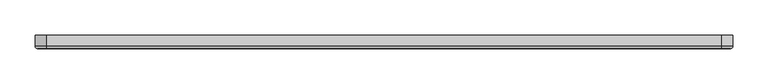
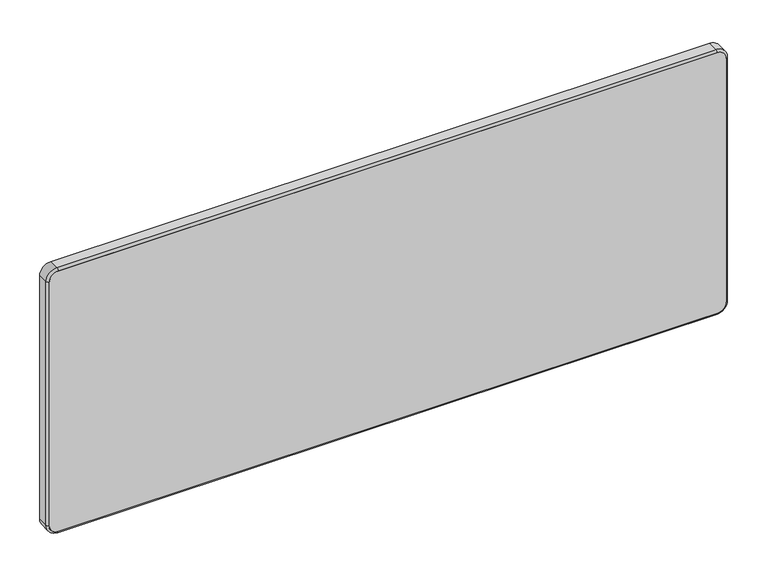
"""IFC4 building model written with IfcOpenShell, lengths in millimetres: furniture geometry, Stance_HC-Camber-Board : SK600E-SFB."""

from ifc_helpers import new_model, si_unit, point, frame, frame_2d, origin, place, context, project, spatial, polyline, circle_curve, ellipse_curve, trimmed, segment, composite_curve, outline, extrude, source, transform, mapped, element, save
from ifc_brep_helpers import plane_surface, cylinder_surface, revolved_surface, advanced_brep


def furniture_7bf03be5(model_context):
    return source(origin(), model_context, "Body", "SolidModel", [
        extrude(outline(composite_curve([segment(polyline([(403.2249758, 479.425), (403.2249758, -479.425)]), True, "CONTINUOUS"), segment(trimmed(circle_curve(frame_2d((390.525, -479.425)), 12.6999758), [point((403.2249758, -479.425))], [point((390.525, -492.1249758))], False, "CARTESIAN"), True, "CONTINUOUS"), segment(polyline([(390.525, -492.1249758), (15.875, -492.1249758)]), True, "CONTINUOUS"), segment(trimmed(circle_curve(frame_2d((15.875, -479.425)), 12.6999758), [point((15.875, -492.1249758))], [point((3.1750242, -479.425))], False, "CARTESIAN"), True, "CONTINUOUS"), segment(polyline([(3.1750242, -479.425), (3.1750242, 479.425)]), True, "CONTINUOUS"), segment(trimmed(circle_curve(frame_2d((15.875, 479.425)), 12.6999758), [point((3.1750242, 479.425))], [point((15.875, 492.1249758))], False, "CARTESIAN"), True, "CONTINUOUS"), segment(polyline([(15.875, 492.1249758), (390.525, 492.1249758)]), True, "CONTINUOUS"), segment(trimmed(circle_curve(frame_2d((390.525, 479.425)), 12.6999758), [point((390.525, 492.1249758))], [point((403.2249758, 479.425))], False, "CARTESIAN"), True, "CONTINUOUS")], self_intersect=False)), frame((0.0, -19.05, 0.0), z_axis=(0.0, 1.0, 0.0), x_axis=(0.0, 0.0, 1.0)), (0.0, 0.0, 1.0), 19.05),
        advanced_brep(
        [(492.1249758, -19.05, 390.525), (479.425, -19.05, 403.2249758), (479.425, 0.0, 403.2249758), (492.1249758, 0.0, 390.525), (495.3, -15.8749996, 390.525), (479.425, -15.8749996, 406.4), (495.3, 0.0, 390.525), (479.425, 0.0, 406.4), (492.1249758, 0.0, 15.875), (492.1249758, -19.05, 15.875), (495.3, -15.8749996, 15.875), (495.3, 0.0, 15.875), (479.425, -19.05, 3.1750242), (479.425, 0.0, 3.1750242), (479.425, -15.8749996, 0.0), (479.425, 0.0, 0.0), (-479.425, 0.0, 3.1750242), (-479.425, -19.05, 3.1750242), (-479.425, -15.8749996, 0.0), (-479.425, 0.0, 0.0), (-492.1249758, -19.05, 15.875), (-492.1249758, 0.0, 15.875), (-495.3, -15.8749996, 15.875), (-495.3, 0.0, 15.875), (-492.1249758, 0.0, 390.525), (-492.1249758, -19.05, 390.525), (-495.3, -15.8749996, 390.525), (-495.3, 0.0, 390.525), (-479.425, -19.05, 403.2249758), (-479.425, 0.0, 403.2249758), (-479.425, -15.8749996, 406.4), (-479.425, 0.0, 406.4)],
        [
            (0, 1, circle_curve(frame((479.425, -19.05, 390.525), z_axis=(0.0, -1.0, 0.0), x_axis=(0.0, 0.0, 1.0)), 12.6999758)),
            (1, 2),
            (2, 3, circle_curve(frame((479.425, 0.0, 390.525), z_axis=(0.0, 1.0, 0.0), x_axis=(0.0, 0.0, 1.0)), 12.6999758)),
            (3, 0),
            (4, 5, circle_curve(frame((479.425, -15.8749996, 390.525), z_axis=(0.0, -1.0, 0.0), x_axis=(0.0, 0.0, 1.0)), 15.875)),
            (5, 1, circle_curve(frame((479.425, -15.8749996, 403.2249996), z_axis=(1.0, 0.0, 0.0), x_axis=(0.0, 0.0, 1.0)), 3.1750004)),
            (0, 4, circle_curve(frame((492.1249996, -15.8749996, 390.525), z_axis=(0.0, 0.0, 1.0), x_axis=(1.0, 0.0, 0.0)), 3.1750004)),
            (6, 7, circle_curve(frame((479.425, 0.0, 390.525), z_axis=(0.0, -1.0, 0.0), x_axis=(0.0, 0.0, 1.0)), 15.875)),
            (7, 5),
            (4, 6),
            (3, 8),
            (8, 9),
            (9, 0),
            (9, 10, circle_curve(frame((492.1249996, -15.8749996, 15.875), z_axis=(0.0, 0.0, 1.0), x_axis=(1.0, 0.0, 0.0)), 3.1750004)),
            (10, 4),
            (10, 11),
            (11, 6),
            (12, 9, circle_curve(frame((479.425, -19.05, 15.875), z_axis=(0.0, -1.0, 0.0), x_axis=(1.0, 0.0, 0.0)), 12.6999758)),
            (8, 13, circle_curve(frame((479.425, 0.0, 15.875), z_axis=(0.0, 1.0, 0.0), x_axis=(1.0, 0.0, 0.0)), 12.6999758)),
            (13, 12),
            (14, 10, circle_curve(frame((479.425, -15.8749996, 15.875), z_axis=(0.0, -1.0, 0.0), x_axis=(1.0, 0.0, 0.0)), 15.875)),
            (12, 14, circle_curve(frame((479.425, -15.8749996, 3.1750004), z_axis=(1.0, 0.0, 0.0), x_axis=(0.0, 0.0, -1.0)), 3.1750004)),
            (15, 11, circle_curve(frame((479.425, 0.0, 15.875), z_axis=(0.0, -1.0, 0.0), x_axis=(1.0, 0.0, 0.0)), 15.875)),
            (14, 15),
            (13, 16),
            (16, 17),
            (17, 12),
            (17, 18, circle_curve(frame((-479.425, -15.8749996, 3.1750004), z_axis=(1.0, 0.0, 0.0), x_axis=(0.0, 0.0, -1.0)), 3.1750004)),
            (18, 14),
            (18, 19),
            (19, 15),
            (20, 17, circle_curve(frame((-479.425, -19.05, 15.875), z_axis=(0.0, -1.0, 0.0), x_axis=(0.0, 0.0, -1.0)), 12.6999758)),
            (16, 21, circle_curve(frame((-479.425, 0.0, 15.875), z_axis=(0.0, 1.0, 0.0), x_axis=(0.0, 0.0, -1.0)), 12.6999758)),
            (21, 20),
            (22, 18, circle_curve(frame((-479.425, -15.8749996, 15.875), z_axis=(0.0, -1.0, 0.0), x_axis=(0.0, 0.0, -1.0)), 15.875)),
            (20, 22, circle_curve(frame((-492.1249996, -15.8749996, 15.875), z_axis=(0.0, 0.0, -1.0), x_axis=(-1.0, 0.0, 0.0)), 3.1750004)),
            (23, 19, circle_curve(frame((-479.425, 0.0, 15.875), z_axis=(0.0, -1.0, 0.0), x_axis=(0.0, 0.0, -1.0)), 15.875)),
            (22, 23),
            (21, 24),
            (24, 25),
            (25, 20),
            (25, 26, circle_curve(frame((-492.1249996, -15.8749996, 390.525), z_axis=(0.0, 0.0, -1.0), x_axis=(-1.0, 0.0, 0.0)), 3.1750004)),
            (26, 22),
            (26, 27),
            (27, 23),
            (28, 25, circle_curve(frame((-479.425, -19.05, 390.525), z_axis=(0.0, -1.0, 0.0), x_axis=(-1.0, 0.0, 0.0)), 12.6999758)),
            (24, 29, circle_curve(frame((-479.425, 0.0, 390.525), z_axis=(0.0, 1.0, 0.0), x_axis=(-1.0, 0.0, 0.0)), 12.6999758)),
            (29, 28),
            (30, 26, circle_curve(frame((-479.425, -15.8749996, 390.525), z_axis=(0.0, -1.0, 0.0), x_axis=(-1.0, 0.0, 0.0)), 15.875)),
            (28, 30, circle_curve(frame((-479.425, -15.8749996, 403.2249996), z_axis=(-1.0, 0.0, 0.0), x_axis=(0.0, 0.0, 1.0)), 3.1750004)),
            (31, 27, circle_curve(frame((-479.425, 0.0, 390.525), z_axis=(0.0, -1.0, 0.0), x_axis=(-1.0, 0.0, 0.0)), 15.875)),
            (30, 31),
            (29, 2),
            (1, 28),
            (5, 30),
            (7, 31),
        ],
        [
            revolved_surface(polyline([(479.425, 0.0, 403.2249758), (479.425, -19.05, 403.2249758)]), (479.425, 0.0, 390.525), (0.0, 1.0, 0.0)),
            revolved_surface(trimmed(ellipse_curve(frame((479.425, -15.8749996, 403.2249996), z_axis=(-1.0, 0.0, 0.0), x_axis=(0.0, 0.0, 1.0)), 3.1750004, 3.1750004), [point((479.425, -19.05, 403.2249758))], [point((479.425, -15.8749996, 406.4))], True, "CARTESIAN"), (479.425, 0.0, 390.525), (0.0, 1.0, 0.0)),
            cylinder_surface(frame((479.425, 0.0, 390.525), z_axis=(0.0, 1.0, 0.0), x_axis=(0.0, 0.0, 1.0)), 15.875),
            plane_surface(frame((492.1249758, 0.0, 390.525), z_axis=(-1.0, 0.0, 0.0), x_axis=(0.0, 0.0, -1.0))),
            cylinder_surface(frame((492.1249996, -15.8749996, 390.525), z_axis=(0.0, 0.0, 1.0), x_axis=(1.0, 0.0, 0.0)), 3.1750004),
            plane_surface(frame((495.3, -15.8749996, 390.525), z_axis=(1.0, 0.0, 0.0), x_axis=(0.0, 0.0, -1.0))),
            revolved_surface(polyline([(492.1249758, 0.0, 15.875), (492.1249758, -19.05, 15.875)]), (479.425, 0.0, 15.875), (0.0, 1.0, 0.0)),
            revolved_surface(trimmed(ellipse_curve(frame((492.1249996, -15.8749996, 15.875), z_axis=(0.0, 0.0, 1.0), x_axis=(1.0, 0.0, 0.0)), 3.1750004, 3.1750004), [point((492.1249758, -19.05, 15.875))], [point((495.3, -15.8749996, 15.875))], True, "CARTESIAN"), (479.425, 0.0, 15.875), (0.0, 1.0, 0.0)),
            cylinder_surface(frame((479.425, 0.0, 15.875), z_axis=(0.0, 1.0, 0.0), x_axis=(1.0, 0.0, 0.0)), 15.875),
            plane_surface(frame((479.425, 0.0, 3.1750242), z_axis=(0.0, 0.0, 1.0), x_axis=(-1.0, 0.0, 0.0))),
            cylinder_surface(frame((479.425, -15.8749996, 3.1750004), z_axis=(1.0, 0.0, 0.0), x_axis=(0.0, 0.0, -1.0)), 3.1750004),
            plane_surface(frame((479.425, -15.8749996, 0.0), z_axis=(0.0, 0.0, -1.0), x_axis=(-1.0, 0.0, 0.0))),
            revolved_surface(polyline([(-479.425, 0.0, 3.1750241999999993), (-479.425, -19.05, 3.1750241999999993)]), (-479.425, 0.0, 15.875), (0.0, 1.0, 0.0)),
            revolved_surface(trimmed(ellipse_curve(frame((-479.425, -15.8749996, 3.1750004), z_axis=(1.0, 0.0, 0.0), x_axis=(0.0, 0.0, -1.0)), 3.1750004, 3.1750004), [point((-479.425, -19.05, 3.1750242))], [point((-479.425, -15.8749996, 0.0))], True, "CARTESIAN"), (-479.425, 0.0, 15.875), (0.0, 1.0, 0.0)),
            cylinder_surface(frame((-479.425, 0.0, 15.875), z_axis=(0.0, 1.0, 0.0), x_axis=(0.0, 0.0, -1.0)), 15.875),
            plane_surface(frame((-492.1249758, 0.0, 15.875), z_axis=(1.0, 0.0, 0.0), x_axis=(0.0, 0.0, 1.0))),
            cylinder_surface(frame((-492.1249996, -15.8749996, 15.875), z_axis=(0.0, 0.0, -1.0), x_axis=(-1.0, 0.0, 0.0)), 3.1750004),
            plane_surface(frame((-495.3, -15.8749996, 15.875), z_axis=(-1.0, 0.0, 0.0), x_axis=(0.0, 0.0, 1.0))),
            revolved_surface(polyline([(-492.1249758, 0.0, 390.525), (-492.1249758, -19.05, 390.525)]), (-479.425, 0.0, 390.525), (0.0, 1.0, 0.0)),
            revolved_surface(trimmed(ellipse_curve(frame((-492.1249996, -15.8749996, 390.525), z_axis=(0.0, 0.0, -1.0), x_axis=(-1.0, 0.0, 0.0)), 3.1750004, 3.1750004), [point((-492.1249758, -19.05, 390.525))], [point((-495.3, -15.8749996, 390.525))], True, "CARTESIAN"), (-479.425, 0.0, 390.525), (0.0, 1.0, 0.0)),
            cylinder_surface(frame((-479.425, 0.0, 390.525), z_axis=(0.0, 1.0, 0.0), x_axis=(-1.0, 0.0, 0.0)), 15.875),
            plane_surface(frame((-479.425, 0.0, 403.2249758), z_axis=(0.0, 0.0, -1.0), x_axis=(1.0, 0.0, 0.0))),
            cylinder_surface(frame((-479.425, -15.8749996, 403.2249996), z_axis=(-1.0, 0.0, 0.0), x_axis=(0.0, 0.0, 1.0)), 3.1750004),
            plane_surface(frame((-479.425, -15.8749996, 406.4), z_axis=(0.0, 0.0, 1.0), x_axis=(1.0, 0.0, 0.0))),
            plane_surface(frame((-479.425, 0.0, 406.4), z_axis=(0.0, 1.0, 0.0), x_axis=(1.0, 0.0, 0.0))),
        ],
        [
            (0, [[1, 2, 3, 4]]),
            (1, [[5, 6, -1, 7]]),
            (2, [[8, 9, -5, 10]]),
            (3, [[-4, 11, 12, 13]]),
            (4, [[-7, -13, 14, 15]]),
            (5, [[-10, -15, 16, 17]]),
            (6, [[18, -12, 19, 20]]),
            (7, [[21, -14, -18, 22]]),
            (8, [[23, -16, -21, 24]]),
            (9, [[-20, 25, 26, 27]]),
            (10, [[-22, -27, 28, 29]]),
            (11, [[-24, -29, 30, 31]]),
            (12, [[32, -26, 33, 34]]),
            (13, [[35, -28, -32, 36]]),
            (14, [[37, -30, -35, 38]]),
            (15, [[-34, 39, 40, 41]]),
            (16, [[-36, -41, 42, 43]]),
            (17, [[-38, -43, 44, 45]]),
            (18, [[46, -40, 47, 48]]),
            (19, [[49, -42, -46, 50]]),
            (20, [[51, -44, -49, 52]]),
            (21, [[-48, 53, -2, 54]]),
            (22, [[-50, -54, -6, 55]]),
            (23, [[-52, -55, -9, 56]]),
            (24, [[-45, -51, -56, -8, -17, -23, -31, -37], [-53, -47, -39, -33, -25, -19, -11, -3]]),
        ],
    ),
    ])


if __name__ == "__main__":
    model = new_model("IFC4")
    model_context = context("Model", 3, world=origin())
    ifc_project = project(units=[si_unit("LENGTHUNIT", "METRE", prefix="MILLI")], contexts=[model_context])
    site = spatial("IfcSite", under=ifc_project)
    building = spatial("IfcBuilding", under=site)
    placement = place(None, origin())
    furniture_shape = furniture_7bf03be5(model_context)
    element("IfcFurniture", 1, ObjectType="Stance_HC-Camber-Board : SK600E-SFB", at=placement, inside=building, context=model_context, shape_type="MappedRepresentation", body=[
        mapped(furniture_shape, transform((0.0, 0.0, 0.0), x_axis=(1.0, 0.0, 0.0), y_axis=(0.0, 1.0, 0.0), z_axis=(0.0, 0.0, 1.0))),
    ])
    save(model, "model.ifc")
